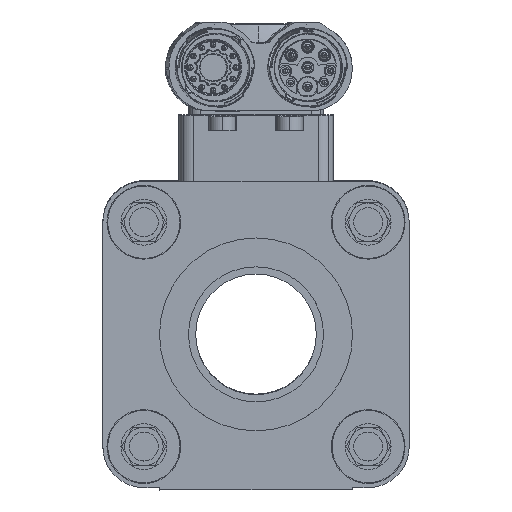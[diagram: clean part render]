
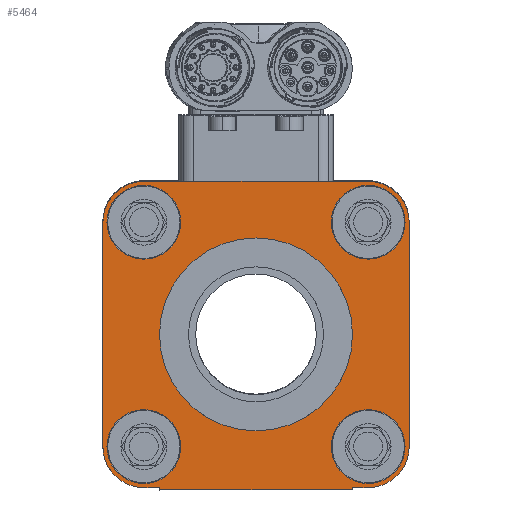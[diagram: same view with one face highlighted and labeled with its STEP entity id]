
A CAD part, left-side view. The second image highlights one B-rep face of the part: STEP entity #5464.
In plain terms, the highlighted planar face has unit normal (-1, 0, -0.001) as drawn and (0, 0, 1) by its records, which use the part's own axes.
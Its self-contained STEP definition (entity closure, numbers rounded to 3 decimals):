
#5464=ADVANCED_FACE('10:20',(#12573,#12574,#12575,#12576,#12577,#12578),#12579,.T.);
#12573=FACE_BOUND('',#20489,.T.);
#12574=FACE_BOUND('',#20490,.T.);
#12575=FACE_BOUND('',#20491,.T.);
#12576=FACE_BOUND('',#20492,.T.);
#12577=FACE_BOUND('',#20493,.T.);
#12578=FACE_OUTER_BOUND('',#20494,.T.);
#12579=PLANE('',#20495);
#20489=EDGE_LOOP('',(#51590,#51591));
#20490=EDGE_LOOP('',(#51592,#51593));
#20491=EDGE_LOOP('',(#51594,#51595));
#20492=EDGE_LOOP('',(#51596,#51597));
#20493=EDGE_LOOP('',(#51598,#51599));
#20494=EDGE_LOOP('',(#51600,#51601,#51602,#51603,#51604,#51605,#51606,#51607,#51608,#51609,#51610,#51611,#51612,#51613,#51614,#51615));
#20495=AXIS2_PLACEMENT_3D('',#51616,#51617,#51618);
#51590=ORIENTED_EDGE('',*,*,#70649,.F.);
#51591=ORIENTED_EDGE('',*,*,#70650,.F.);
#51592=ORIENTED_EDGE('',*,*,#70651,.F.);
#51593=ORIENTED_EDGE('',*,*,#70652,.F.);
#51594=ORIENTED_EDGE('',*,*,#70653,.F.);
#51595=ORIENTED_EDGE('',*,*,#70654,.F.);
#51596=ORIENTED_EDGE('',*,*,#70655,.F.);
#51597=ORIENTED_EDGE('',*,*,#70656,.F.);
#51598=ORIENTED_EDGE('',*,*,#70657,.F.);
#51599=ORIENTED_EDGE('',*,*,#70658,.F.);
#51600=ORIENTED_EDGE('',*,*,#70659,.F.);
#51601=ORIENTED_EDGE('',*,*,#70660,.F.);
#51602=ORIENTED_EDGE('',*,*,#70661,.F.);
#51603=ORIENTED_EDGE('',*,*,#70662,.F.);
#51604=ORIENTED_EDGE('',*,*,#70663,.F.);
#51605=ORIENTED_EDGE('',*,*,#70664,.F.);
#51606=ORIENTED_EDGE('',*,*,#70665,.F.);
#51607=ORIENTED_EDGE('',*,*,#70666,.F.);
#51608=ORIENTED_EDGE('',*,*,#70667,.F.);
#51609=ORIENTED_EDGE('',*,*,#70668,.F.);
#51610=ORIENTED_EDGE('',*,*,#70669,.F.);
#51611=ORIENTED_EDGE('',*,*,#70670,.F.);
#51612=ORIENTED_EDGE('',*,*,#70671,.F.);
#51613=ORIENTED_EDGE('',*,*,#70672,.F.);
#51614=ORIENTED_EDGE('',*,*,#70673,.F.);
#51615=ORIENTED_EDGE('',*,*,#70674,.F.);
#51616=CARTESIAN_POINT('',(0.0,0.0,34.0));
#51617=DIRECTION('',(0.0,0.0,1.0));
#51618=DIRECTION('',(1.0,0.0,0.0));
#70649=EDGE_CURVE('',#83326,#83327,#83328,.T.);
#70650=EDGE_CURVE('',#83327,#83326,#83329,.T.);
#70651=EDGE_CURVE('',#83330,#83331,#83332,.F.);
#70652=EDGE_CURVE('',#83331,#83330,#83333,.F.);
#70653=EDGE_CURVE('',#83334,#83335,#83336,.F.);
#70654=EDGE_CURVE('',#83335,#83334,#83337,.F.);
#70655=EDGE_CURVE('',#83338,#83339,#83340,.F.);
#70656=EDGE_CURVE('',#83339,#83338,#83341,.F.);
#70657=EDGE_CURVE('',#83342,#83343,#83344,.F.);
#70658=EDGE_CURVE('',#83343,#83342,#83345,.F.);
#70659=EDGE_CURVE('',#83346,#83347,#83348,.F.);
#70660=EDGE_CURVE('',#83349,#83346,#83350,.F.);
#70661=EDGE_CURVE('',#83351,#83349,#83352,.F.);
#70662=EDGE_CURVE('',#83353,#83351,#83354,.F.);
#70663=EDGE_CURVE('',#83355,#83353,#83356,.F.);
#70664=EDGE_CURVE('',#83357,#83355,#83358,.F.);
#70665=EDGE_CURVE('',#83359,#83357,#83360,.F.);
#70666=EDGE_CURVE('',#83361,#83359,#83362,.F.);
#70667=EDGE_CURVE('',#83363,#83361,#83364,.F.);
#70668=EDGE_CURVE('',#83365,#83363,#83366,.F.);
#70669=EDGE_CURVE('',#83367,#83365,#83368,.F.);
#70670=EDGE_CURVE('',#83369,#83367,#83370,.T.);
#70671=EDGE_CURVE('',#83371,#83369,#83372,.T.);
#70672=EDGE_CURVE('',#83373,#83371,#83374,.T.);
#70673=EDGE_CURVE('',#83375,#83373,#83376,.F.);
#70674=EDGE_CURVE('',#83347,#83375,#83377,.F.);
#83326=VERTEX_POINT('',#105019);
#83327=VERTEX_POINT('',#105020);
#83328=CIRCLE('',#105021,20.0);
#83329=CIRCLE('',#105022,20.0);
#83330=VERTEX_POINT('',#105023);
#83331=VERTEX_POINT('',#105024);
#83332=CIRCLE('',#105025,7.65);
#83333=CIRCLE('',#105026,7.65);
#83334=VERTEX_POINT('',#105027);
#83335=VERTEX_POINT('',#105028);
#83336=CIRCLE('',#105029,7.65);
#83337=CIRCLE('',#105030,7.65);
#83338=VERTEX_POINT('',#105031);
#83339=VERTEX_POINT('',#105032);
#83340=CIRCLE('',#105033,7.65);
#83341=CIRCLE('',#105034,7.65);
#83342=VERTEX_POINT('',#105035);
#83343=VERTEX_POINT('',#105036);
#83344=CIRCLE('',#105037,7.65);
#83345=CIRCLE('',#105038,7.65);
#83346=VERTEX_POINT('',#105039);
#83347=VERTEX_POINT('',#105040);
#83348=CIRCLE('',#105041,8.5);
#83349=VERTEX_POINT('',#105042);
#83350=LINE('',#105043,#105044);
#83351=VERTEX_POINT('',#105045);
#83352=CIRCLE('',#105046,8.5);
#83353=VERTEX_POINT('',#105047);
#83354=CIRCLE('',#105048,8.5);
#83355=VERTEX_POINT('',#105049);
#83356=LINE('',#105050,#105051);
#83357=VERTEX_POINT('',#105052);
#83358=CIRCLE('',#105053,8.5);
#83359=VERTEX_POINT('',#105054);
#83360=CIRCLE('',#105055,8.5);
#83361=VERTEX_POINT('',#105056);
#83362=LINE('',#105057,#105058);
#83363=VERTEX_POINT('',#105059);
#83364=CIRCLE('',#105060,8.5);
#83365=VERTEX_POINT('',#105061);
#83366=CIRCLE('',#105062,8.5);
#83367=VERTEX_POINT('',#105063);
#83368=LINE('',#105064,#105065);
#83369=VERTEX_POINT('',#105066);
#83370=LINE('',#105067,#105068);
#83371=VERTEX_POINT('',#105069);
#83372=LINE('',#105070,#105071);
#83373=VERTEX_POINT('',#105072);
#83374=LINE('',#105073,#105074);
#83375=VERTEX_POINT('',#105075);
#83376=LINE('',#105076,#105077);
#83377=CIRCLE('',#105078,8.5);
#105019=CARTESIAN_POINT('',(-4.191,-13.386,34.0));
#105020=CARTESIAN_POINT('',(35.809,-13.386,34.0));
#105021=AXIS2_PLACEMENT_3D('',#146161,#146162,#146163);
#105022=AXIS2_PLACEMENT_3D('',#146164,#146165,#146166);
#105023=CARTESIAN_POINT('',(31.409,-36.636,34.0));
#105024=CARTESIAN_POINT('',(46.709,-36.636,34.0));
#105025=AXIS2_PLACEMENT_3D('',#146167,#146168,#146169);
#105026=AXIS2_PLACEMENT_3D('',#146170,#146171,#146172);
#105027=CARTESIAN_POINT('',(-15.091,-36.636,34.0));
#105028=CARTESIAN_POINT('',(0.209,-36.636,34.0));
#105029=AXIS2_PLACEMENT_3D('',#146173,#146174,#146175);
#105030=AXIS2_PLACEMENT_3D('',#146176,#146177,#146178);
#105031=CARTESIAN_POINT('',(31.409,9.864,34.0));
#105032=CARTESIAN_POINT('',(46.709,9.864,34.0));
#105033=AXIS2_PLACEMENT_3D('',#146179,#146180,#146181);
#105034=AXIS2_PLACEMENT_3D('',#146182,#146183,#146184);
#105035=CARTESIAN_POINT('',(-15.091,9.864,34.0));
#105036=CARTESIAN_POINT('',(0.209,9.864,34.0));
#105037=AXIS2_PLACEMENT_3D('',#146185,#146186,#146187);
#105038=AXIS2_PLACEMENT_3D('',#146188,#146189,#146190);
#105039=CARTESIAN_POINT('',(47.559,-36.636,34.0));
#105040=CARTESIAN_POINT('',(45.069,-42.647,34.0));
#105041=AXIS2_PLACEMENT_3D('',#146191,#146192,#146193);
#105042=CARTESIAN_POINT('',(47.559,9.864,34.0));
#105043=CARTESIAN_POINT('',(47.559,-6.693,34.0));
#105044=VECTOR('',#146194,1.0);
#105045=CARTESIAN_POINT('',(45.069,15.874,34.0));
#105046=AXIS2_PLACEMENT_3D('',#146195,#146196,#146197);
#105047=CARTESIAN_POINT('',(39.059,18.364,34.0));
#105048=AXIS2_PLACEMENT_3D('',#146198,#146199,#146200);
#105049=CARTESIAN_POINT('',(-7.441,18.364,34.0));
#105050=CARTESIAN_POINT('',(7.904,18.364,34.0));
#105051=VECTOR('',#146201,1.0);
#105052=CARTESIAN_POINT('',(-13.451,15.874,34.0));
#105053=AXIS2_PLACEMENT_3D('',#146202,#146203,#146204);
#105054=CARTESIAN_POINT('',(-15.941,9.864,34.0));
#105055=AXIS2_PLACEMENT_3D('',#146205,#146206,#146207);
#105056=CARTESIAN_POINT('',(-15.941,-36.636,34.0));
#105057=CARTESIAN_POINT('',(-15.941,-6.693,34.0));
#105058=VECTOR('',#146208,1.0);
#105059=CARTESIAN_POINT('',(-13.451,-42.647,34.0));
#105060=AXIS2_PLACEMENT_3D('',#146209,#146210,#146211);
#105061=CARTESIAN_POINT('',(-7.441,-45.136,34.0));
#105062=AXIS2_PLACEMENT_3D('',#146212,#146213,#146214);
#105063=CARTESIAN_POINT('',(-4.191,-45.136,34.0));
#105064=CARTESIAN_POINT('',(7.904,-45.136,34.0));
#105065=VECTOR('',#146215,1.0);
#105066=CARTESIAN_POINT('',(-4.191,-45.636,34.0));
#105067=CARTESIAN_POINT('',(-4.191,-45.636,34.0));
#105068=VECTOR('',#146216,1.0);
#105069=CARTESIAN_POINT('',(35.809,-45.636,34.0));
#105070=CARTESIAN_POINT('',(35.809,-45.636,34.0));
#105071=VECTOR('',#146217,1.0);
#105072=CARTESIAN_POINT('',(35.809,-45.136,34.0));
#105073=CARTESIAN_POINT('',(35.809,-45.136,34.0));
#105074=VECTOR('',#146218,1.0);
#105075=CARTESIAN_POINT('',(39.059,-45.136,34.0));
#105076=CARTESIAN_POINT('',(7.904,-45.136,34.0));
#105077=VECTOR('',#146219,1.0);
#105078=AXIS2_PLACEMENT_3D('',#146220,#146221,#146222);
#146161=CARTESIAN_POINT('',(15.809,-13.386,34.0));
#146162=DIRECTION('',(0.0,0.0,1.0));
#146163=DIRECTION('',(1.0,0.0,-0.0));
#146164=CARTESIAN_POINT('',(15.809,-13.386,34.0));
#146165=DIRECTION('',(0.0,0.0,1.0));
#146166=DIRECTION('',(1.0,0.0,-0.0));
#146167=CARTESIAN_POINT('',(39.059,-36.636,34.0));
#146168=DIRECTION('',(0.0,0.0,-1.0));
#146169=DIRECTION('',(1.0,0.0,0.0));
#146170=CARTESIAN_POINT('',(39.059,-36.636,34.0));
#146171=DIRECTION('',(0.0,0.0,-1.0));
#146172=DIRECTION('',(1.0,0.0,0.0));
#146173=CARTESIAN_POINT('',(-7.441,-36.636,34.0));
#146174=DIRECTION('',(0.0,0.0,-1.0));
#146175=DIRECTION('',(1.0,0.0,0.0));
#146176=CARTESIAN_POINT('',(-7.441,-36.636,34.0));
#146177=DIRECTION('',(0.0,0.0,-1.0));
#146178=DIRECTION('',(1.0,0.0,0.0));
#146179=CARTESIAN_POINT('',(39.059,9.864,34.0));
#146180=DIRECTION('',(0.0,0.0,-1.0));
#146181=DIRECTION('',(1.0,0.0,0.0));
#146182=CARTESIAN_POINT('',(39.059,9.864,34.0));
#146183=DIRECTION('',(0.0,0.0,-1.0));
#146184=DIRECTION('',(1.0,0.0,0.0));
#146185=CARTESIAN_POINT('',(-7.441,9.864,34.0));
#146186=DIRECTION('',(0.0,0.0,-1.0));
#146187=DIRECTION('',(1.0,0.0,0.0));
#146188=CARTESIAN_POINT('',(-7.441,9.864,34.0));
#146189=DIRECTION('',(0.0,0.0,-1.0));
#146190=DIRECTION('',(1.0,0.0,0.0));
#146191=CARTESIAN_POINT('',(39.059,-36.636,34.0));
#146192=DIRECTION('',(0.0,0.0,1.0));
#146193=DIRECTION('',(0.707,-0.707,0.0));
#146194=DIRECTION('',(-0.0,1.0,0.0));
#146195=CARTESIAN_POINT('',(39.059,9.864,34.0));
#146196=DIRECTION('',(0.0,-0.0,1.0));
#146197=DIRECTION('',(0.707,0.707,0.0));
#146198=CARTESIAN_POINT('',(39.059,9.864,34.0));
#146199=DIRECTION('',(0.0,-0.0,1.0));
#146200=DIRECTION('',(0.707,0.707,0.0));
#146201=DIRECTION('',(-1.0,0.0,0.0));
#146202=CARTESIAN_POINT('',(-7.441,9.864,34.0));
#146203=DIRECTION('',(0.0,0.0,1.0));
#146204=DIRECTION('',(-0.707,0.707,0.0));
#146205=CARTESIAN_POINT('',(-7.441,9.864,34.0));
#146206=DIRECTION('',(0.0,0.0,1.0));
#146207=DIRECTION('',(-0.707,0.707,0.0));
#146208=DIRECTION('',(0.0,-1.0,0.0));
#146209=CARTESIAN_POINT('',(-7.441,-36.636,34.0));
#146210=DIRECTION('',(0.0,0.0,1.0));
#146211=DIRECTION('',(-0.707,-0.707,0.0));
#146212=CARTESIAN_POINT('',(-7.441,-36.636,34.0));
#146213=DIRECTION('',(0.0,0.0,1.0));
#146214=DIRECTION('',(-0.707,-0.707,0.0));
#146215=DIRECTION('',(1.0,0.0,-0.0));
#146216=DIRECTION('',(0.0,1.0,0.0));
#146217=DIRECTION('',(-1.0,0.0,0.0));
#146218=DIRECTION('',(0.0,-1.0,0.0));
#146219=DIRECTION('',(1.0,0.0,-0.0));
#146220=CARTESIAN_POINT('',(39.059,-36.636,34.0));
#146221=DIRECTION('',(0.0,0.0,1.0));
#146222=DIRECTION('',(0.707,-0.707,0.0));
